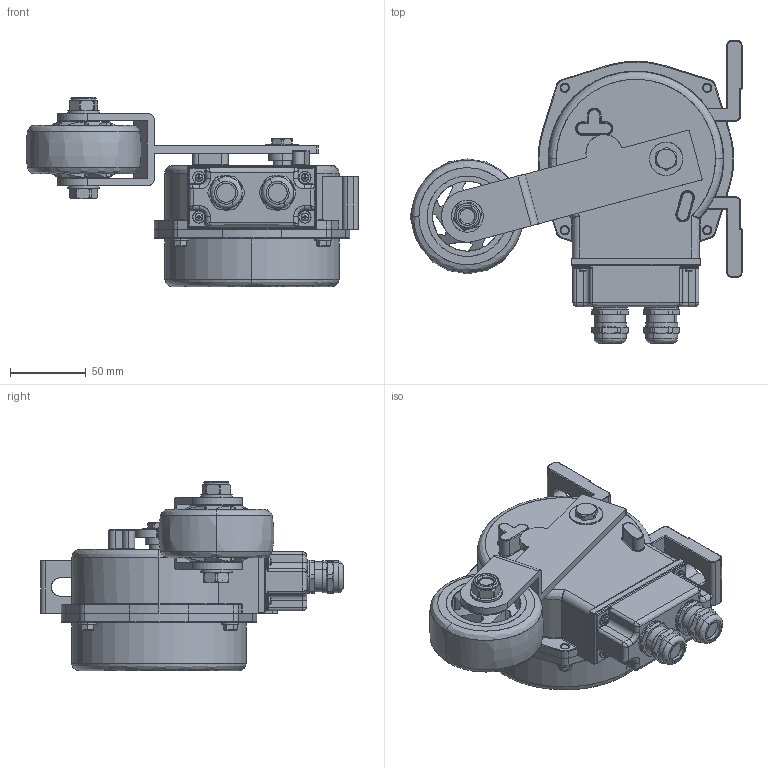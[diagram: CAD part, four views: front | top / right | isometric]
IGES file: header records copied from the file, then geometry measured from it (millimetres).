
Start section: SolidWorks IGES file using analytic representation for surfaces
Global section: file name: C:\Users\Äîì\Desktop\Äàò÷èêè ìîäåëè\Hjkbr\Rjvgfc\BWS.IGS; native system: SolidWorks 2020; preprocessor: SolidWorks 2020; author: Äîì; date: 210224.235156; units: millimetre
Bounding box: 219.04 x 199.6 x 125 mm (x, y, z)
Surface area: 185757.5 mm2 (no closed solid volume)
Topology: 0 solids, 0 shells, 942 faces, 11925 edges, 11902 vertices
Faces by surface type: revolution 480, bspline 462
